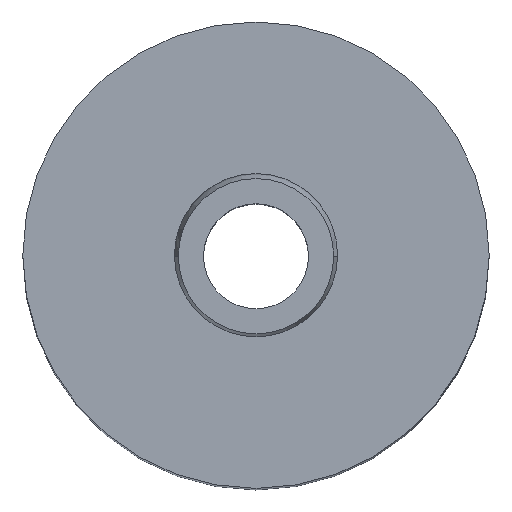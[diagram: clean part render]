
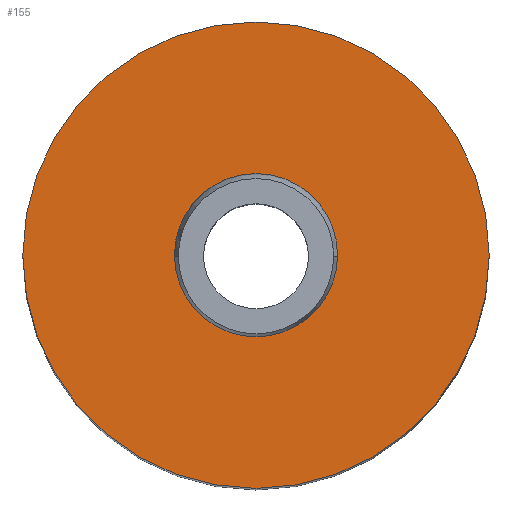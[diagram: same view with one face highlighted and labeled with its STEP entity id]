
A CAD part, top view. The second image highlights one B-rep face of the part: STEP entity #155.
In plain terms, the highlighted planar face has unit normal (0, 0, 1).
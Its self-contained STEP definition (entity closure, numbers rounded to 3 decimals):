
#155=ADVANCED_FACE('',(#179,#180),#174,.T.);
#174=PLANE('',#380);
#179=FACE_BOUND('',#189,.T.);
#180=FACE_BOUND('',#190,.T.);
#189=EDGE_LOOP('',(#213,#214));
#190=EDGE_LOOP('',(#215,#216));
#213=ORIENTED_EDGE('',*,*,#313,.T.);
#214=ORIENTED_EDGE('',*,*,#314,.T.);
#215=ORIENTED_EDGE('',*,*,#315,.F.);
#216=ORIENTED_EDGE('',*,*,#316,.F.);
#289=VERTEX_POINT('',#523);
#290=VERTEX_POINT('',#524);
#291=VERTEX_POINT('',#527);
#292=VERTEX_POINT('',#528);
#313=EDGE_CURVE('',#289,#290,#351,.T.);
#314=EDGE_CURVE('',#290,#289,#352,.T.);
#315=EDGE_CURVE('',#291,#292,#353,.T.);
#316=EDGE_CURVE('',#292,#291,#354,.T.);
#351=CIRCLE('',#376,20.);
#352=CIRCLE('',#377,20.);
#353=CIRCLE('',#378,7.);
#354=CIRCLE('',#379,7.);
#376=AXIS2_PLACEMENT_3D('',#522,#421,#422);
#377=AXIS2_PLACEMENT_3D('',#525,#423,#424);
#378=AXIS2_PLACEMENT_3D('',#526,#425,#426);
#379=AXIS2_PLACEMENT_3D('',#529,#427,#428);
#380=AXIS2_PLACEMENT_3D('',#530,#429,#430);
#421=DIRECTION('',(0.,0.,1.));
#422=DIRECTION('',(0.,1.,0.));
#423=DIRECTION('',(0.,0.,1.));
#424=DIRECTION('',(0.,-1.,0.));
#425=DIRECTION('',(0.,0.,1.));
#426=DIRECTION('',(0.,-1.,0.));
#427=DIRECTION('',(0.,0.,1.));
#428=DIRECTION('',(0.,1.,0.));
#429=DIRECTION('',(0.,0.,1.));
#430=DIRECTION('',(0.,1.,0.));
#522=CARTESIAN_POINT('',(0.,0.,80.));
#523=CARTESIAN_POINT('',(-20.,0.,80.));
#524=CARTESIAN_POINT('',(20.,0.,80.));
#525=CARTESIAN_POINT('',(0.,0.,80.));
#526=CARTESIAN_POINT('',(0.,0.,80.));
#527=CARTESIAN_POINT('',(7.,0.,80.));
#528=CARTESIAN_POINT('',(-7.,0.,80.));
#529=CARTESIAN_POINT('',(0.,0.,80.));
#530=CARTESIAN_POINT('',(0.,0.,80.));
